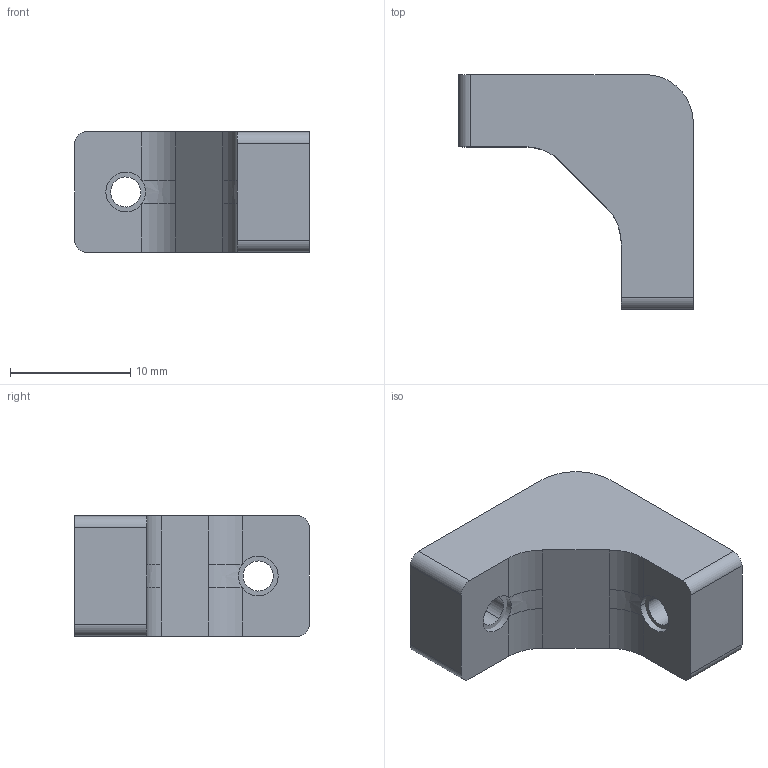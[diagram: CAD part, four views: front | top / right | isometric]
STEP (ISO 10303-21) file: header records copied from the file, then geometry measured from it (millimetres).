
FILE_DESCRIPTION (( 'STEP AP214' ), '1' );
FILE_NAME ('90° Joint.STEP', '2024-06-26T07:56:43', ( '' ), ( '' ), 'SwSTEP 2.0', 'SolidWorks 2023', '' );
FILE_SCHEMA (( 'AUTOMOTIVE_DESIGN' ));
Length unit declared in the file: millimetre
Products named in the file (3): 90° Joint PLA; M3 Insert; 90° Joint
Assembly tree (3 placements, depth 2):
  90° Joint
    90° Joint PLA
    M3 Insert  x2
Bounding box: 19.51 x 19.51 x 10 mm (x, y, z)
Volume: 2181.2 mm3; surface area: 1670.6 mm2
Topology: 3 solids, 3 shells, 612 faces, 1524 edges, 916 vertices
Faces by surface type: plane 445, cylinder 165, bspline 2
Entity records: 9498 total; most frequent: DIRECTION 1688, CARTESIAN_POINT 1668, ORIENTED_EDGE 1592, EDGE_CURVE 796, AXIS2_PLACEMENT_3D 572, LINE 544, VECTOR 544, VERTEX_POINT 480
